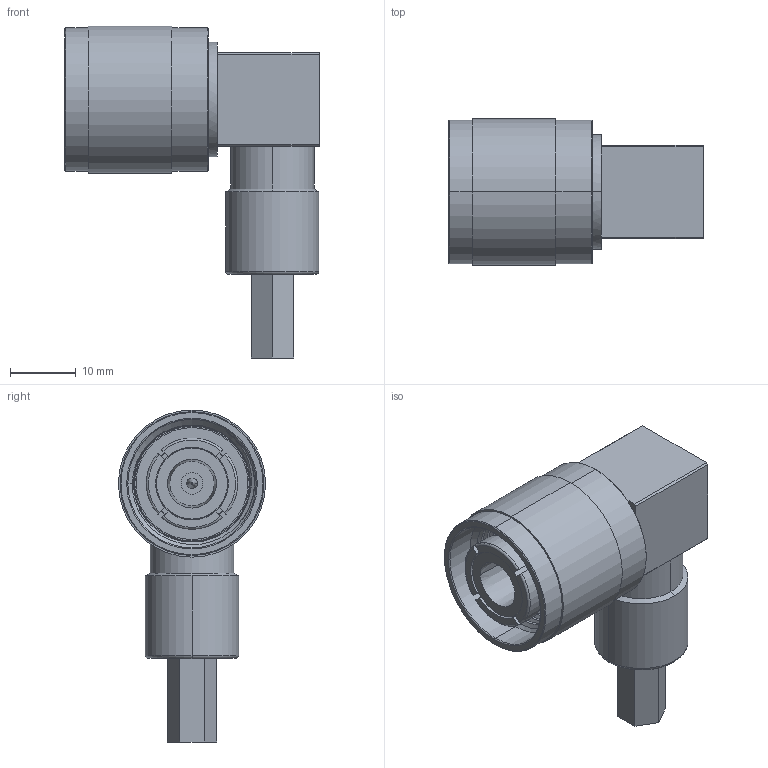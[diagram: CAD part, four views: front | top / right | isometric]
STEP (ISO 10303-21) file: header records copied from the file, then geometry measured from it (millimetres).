
FILE_DESCRIPTION((''),'2;1');
FILE_NAME('CHR922','2022-05-23T12:22:01',('scott.shaffer'),('Carlisle Interconnect Technologies'),'CREO PARAMETRIC BY PTC INC, 2019080','CREO PARAMETRIC BY PTC INC, 2019080','');
FILE_SCHEMA(('CONFIG_CONTROL_DESIGN'));
Length unit declared in the file: millimetre
Products named in the file (1): CHR922
Bounding box: 38.73 x 22.4 x 50.55 mm (x, y, z)
Volume: 12768.8 mm3; surface area: 7328.3 mm2
Topology: 1 solids, 1 shells, 163 faces, 423 edges, 277 vertices
Faces by surface type: cylinder 75, plane 55, cone 19, torus 12, bspline 2
Entity records: 9107 total; most frequent: CARTESIAN_POINT 5105, ORIENTED_EDGE 846, DIRECTION 812, EDGE_CURVE 423, AXIS2_PLACEMENT_3D 319, VERTEX_POINT 277, EDGE_LOOP 178, VECTOR 174
